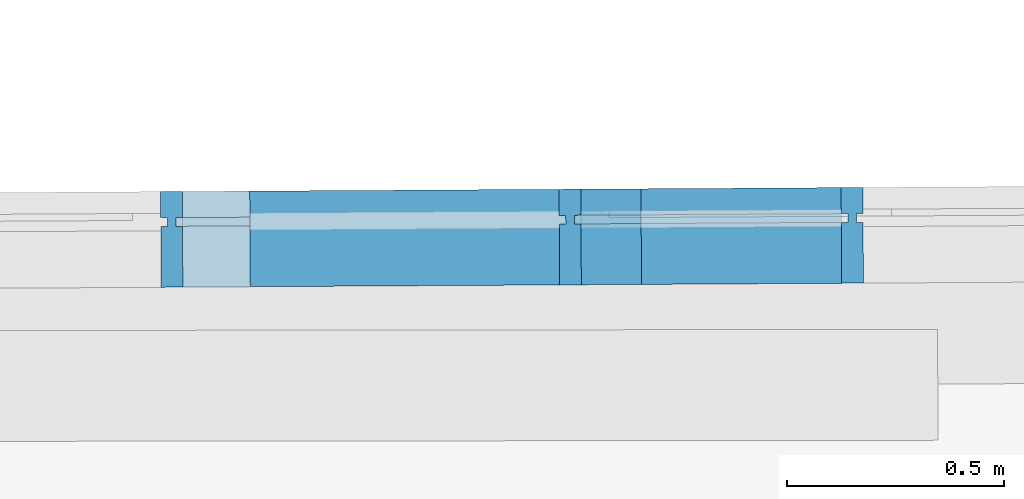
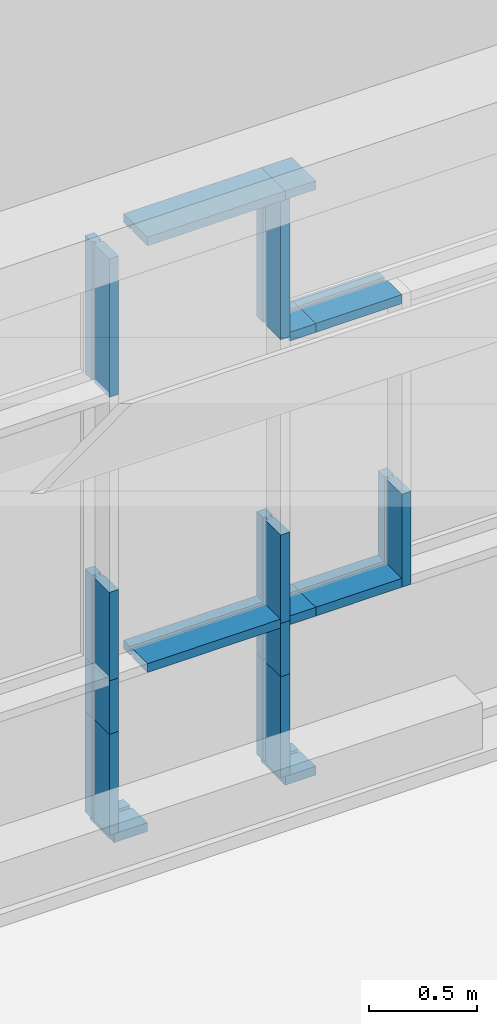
# One storey, part 161 of 196: 18 building element parts, 1 element without a shape of its own.
"""IFC2X3 building model written with IfcOpenShell, lengths in metres."""

from ifc_helpers import new_model, entity, si_unit, converted_unit, derived_unit, money_unit, direction, frame, origin_with_axes, place, context, subcontext, project, spatial, faceted_brep, material, type_object, element, aggregate, save


model = new_model("IFC2X3")

# Units and contexts
model_context = context("Model", 3, precision=1e-05, world=origin_with_axes(), true_north=direction((0.0, 1.0)))
body_context = subcontext(model_context, "Body", "Model", "MODEL_VIEW")
ifc_project = project(units=[si_unit("LENGTHUNIT", "METRE"), si_unit("AREAUNIT", "SQUARE_METRE"), si_unit("VOLUMEUNIT", "CUBIC_METRE"), converted_unit("PLANEANGLEUNIT", "DEGREE", entity("IfcPlaneAngleMeasure", 0.0174532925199), si_unit("PLANEANGLEUNIT", "RADIAN"), dimensions=[0, 0, 0, 0, 0, 0, 0]), money_unit("EUR"), converted_unit("TIMEUNIT", "Year", entity("IfcTimeMeasure", 31556926.0), si_unit("TIMEUNIT", "SECOND"), dimensions=[0, 0, 1, 0, 0, 0, 0]), si_unit("MASSUNIT", "GRAM", prefix="KILO"), si_unit("THERMODYNAMICTEMPERATUREUNIT", "DEGREE_CELSIUS"), si_unit("LUMINOUSINTENSITYUNIT", "LUMEN"), si_unit("ENERGYUNIT", "JOULE", prefix="MEGA"), derived_unit("THERMALCONDUCTANCEUNIT", [(si_unit("POWERUNIT", "WATT"), 1), (si_unit("LENGTHUNIT", "METRE"), -1), (si_unit("THERMODYNAMICTEMPERATUREUNIT", "KELVIN"), -1)]), derived_unit("SPECIFICHEATCAPACITYUNIT", [(si_unit("ENERGYUNIT", "JOULE"), 1), (si_unit("MASSUNIT", "GRAM", prefix="KILO"), -1), (si_unit("THERMODYNAMICTEMPERATUREUNIT", "KELVIN"), -1)]), derived_unit("MASSDENSITYUNIT", [(si_unit("MASSUNIT", "GRAM", prefix="KILO"), 1), (si_unit("VOLUMEUNIT", "CUBIC_METRE"), -1)])], contexts=[model_context])

# Site, building, storey
site_placement = place(None, origin_with_axes())
site = spatial("IfcSite", under=ifc_project, at=site_placement, Name="Gelände", CompositionType="ELEMENT")
building_placement = place(site_placement, origin_with_axes())
building = spatial("IfcBuilding", under=site, at=building_placement, Name="Gebäude", CompositionType="ELEMENT")
storey_placement = place(building_placement, frame((0.0, 0.0, -3.0), z_axis=(0.0, 0.0, 1.0), x_axis=(1.0, 0.0, 0.0)))
storey = spatial("IfcBuildingStorey", under=building, at=storey_placement, Name="KELLERGESCHOSS", CompositionType="ELEMENT", Elevation=-3.0)

# Proxy, building element parts
building_element_proxy_type = type_object("IfcBuildingElementProxyType", Name="Fassadentyp", PredefinedType="NOTDEFINED")
proxy_placement = place(storey_placement, frame((-32.8906294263, 53.9050625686, 0.421025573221), z_axis=(0.0, 0.0, 1.0), x_axis=(1.0, 0.0, 0.0)))
proxy = element("IfcBuildingElementProxy", 1, at=proxy_placement, inside=storey, type_object=building_element_proxy_type, Name="Fassade-002")
ifc_material = material(Name="53_Metall, Aluminium")
building_element_part_1_placement = place(proxy_placement, origin_with_axes())
building_element_part_1 = element("IfcBuildingElementPart", 2, at=building_element_part_1_placement, material=ifc_material, Name="53_Metall, Aluminium", context=body_context, shape_type="Brep", body=[
    faceted_brep([(2.3205840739, 0.00370906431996, 3.31499994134), (2.3205840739, 0.00370906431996, 3.29999994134), (2.3214111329, -0.136288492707, 3.29999994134), (2.3214111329, -0.136288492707, 3.34999994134), (2.32011146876, 0.0837076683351, 3.34999994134), (2.32011146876, 0.0837076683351, 3.29999994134), (2.32046592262, 0.0237087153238, 3.29999994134), (2.32046592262, 0.0237087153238, 3.31499994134), (2.4840161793, 0.00467456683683, 3.31499994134), (2.4840161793, 0.00467456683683, 3.29999994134), (2.4848432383, -0.13532299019, 3.29999994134), (2.4848432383, -0.13532299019, 3.34999994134), (2.48354357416, 0.084673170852, 3.34999994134), (2.48354357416, 0.084673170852, 3.29999994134), (2.48389802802, 0.0246742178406, 3.29999994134), (2.48389802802, 0.0246742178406, 3.31499994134)], [[[0, 1, 2, 3, 4, 5, 6, 7]], [[0, 8, 9, 1]], [[9, 10, 2, 1]], [[10, 11, 3, 2]], [[11, 12, 4, 3]], [[12, 13, 5, 4]], [[6, 5, 13, 14]], [[14, 15, 7, 6]], [[7, 15, 8, 0]], [[8, 15, 14, 13, 12, 11, 10, 9]]]),
])
building_element_part_2_placement = place(proxy_placement, origin_with_axes())
building_element_part_2 = element("IfcBuildingElementPart", 3, at=building_element_part_2_placement, material=ifc_material, Name="53_Metall, Aluminium", context=body_context, shape_type="Brep", body=[
    faceted_brep([(2.34558363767, 0.00385675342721, 2.51000003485), (2.34558363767, 0.00385675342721, 2.49500003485), (2.34641069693, -0.136140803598, 2.49500003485), (2.34641069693, -0.136140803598, 2.54500003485), (2.34558363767, 0.00385675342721, 2.54500003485), (2.34558363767, 0.00385675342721, 2.53000003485), (2.34546548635, 0.0238564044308, 2.53000003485), (2.34546548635, 0.0238564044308, 2.54500003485), (2.34511103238, 0.0838553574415, 2.54500003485), (2.34511103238, 0.0838553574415, 2.49500003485), (2.34546548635, 0.0238564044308, 2.49500003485), (2.34546548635, 0.0238564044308, 2.51000003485), (2.4840161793, 0.00467456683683, 2.51000003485), (2.4840161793, 0.00467456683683, 2.49500003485), (2.4848432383, -0.13532299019, 2.49500003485), (2.4848432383, -0.13532299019, 2.54500003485), (2.4840161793, 0.00467456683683, 2.54500003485), (2.4840161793, 0.00467456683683, 2.53000003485), (2.48389802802, 0.0246742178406, 2.53000003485), (2.48389802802, 0.0246742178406, 2.54500003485), (2.48354357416, 0.084673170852, 2.54500003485), (2.48354357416, 0.084673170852, 2.49500003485), (2.48389802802, 0.0246742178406, 2.49500003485), (2.48389802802, 0.0246742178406, 2.51000003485)], [[[0, 1, 2, 3, 4, 5, 6, 7, 8, 9, 10, 11]], [[1, 0, 12, 13]], [[1, 13, 14, 2]], [[3, 2, 14, 15]], [[4, 3, 15, 16]], [[4, 16, 17, 5]], [[5, 17, 18, 6]], [[7, 6, 18, 19]], [[19, 20, 8, 7]], [[9, 8, 20, 21]], [[22, 10, 9, 21]], [[11, 10, 22, 23]], [[0, 11, 23, 12]], [[23, 22, 21, 20, 19, 18, 17, 16, 15, 14, 13, 12]]]),
])
building_element_part_3_placement = place(proxy_placement, origin_with_axes())
building_element_part_3 = element("IfcBuildingElementPart", 4, at=building_element_part_3_placement, material=ifc_material, Name="53_Metall, Aluminium", context=body_context, shape_type="Brep", body=[
    faceted_brep([(1.39401963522, -0.00176477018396, 0.620000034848), (1.37901989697, -0.00185338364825, 0.620000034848), (1.37984695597, -0.141850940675, 0.620000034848), (1.42984608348, -0.141555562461, 0.620000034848), (1.42901902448, -0.00155800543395, 0.620000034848), (1.41401928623, -0.00164661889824, 0.620000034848), (1.41390113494, 0.0183530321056, 0.620000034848), (1.42890087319, 0.0184416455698, 0.620000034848), (1.42854641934, 0.0784405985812, 0.620000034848), (1.37854729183, 0.0781452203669, 0.620000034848), (1.37890174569, 0.0181462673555, 0.620000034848), (1.39390148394, 0.0182348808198, 0.620000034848), (1.39401963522, -0.00176477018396, 0.0499999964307), (1.37901989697, -0.00185338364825, 0.0499999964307), (1.37984695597, -0.141850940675, 0.0499999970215), (1.42984608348, -0.141555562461, 0.0499999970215), (1.42901902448, -0.00155800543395, 0.0499999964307), (1.41401928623, -0.00164661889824, 0.0499999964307), (1.41390113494, 0.0183530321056, 0.0499999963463), (1.42890087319, 0.0184416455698, 0.0499999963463), (1.42854641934, 0.0784405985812, 0.0499999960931), (1.37854729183, 0.0781452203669, 0.0499999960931), (1.37890174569, 0.0181462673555, 0.0499999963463), (1.39390148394, 0.0182348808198, 0.0499999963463)], [[[0, 1, 2, 3, 4, 5, 6, 7, 8, 9, 10, 11]], [[1, 0, 12, 13]], [[1, 13, 14, 2]], [[2, 14, 15, 3]], [[4, 3, 15, 16]], [[4, 16, 17, 5]], [[5, 17, 18, 6]], [[7, 6, 18, 19]], [[19, 20, 8, 7]], [[8, 20, 21, 9]], [[22, 10, 9, 21]], [[11, 10, 22, 23]], [[0, 11, 23, 12]], [[23, 22, 21, 20, 19, 18, 17, 16, 15, 14, 13, 12]]]),
])
building_element_part_4_placement = place(proxy_placement, origin_with_axes())
building_element_part_4 = element("IfcBuildingElementPart", 5, at=building_element_part_4_placement, material=ifc_material, Name="53_Metall, Aluminium", context=body_context, shape_type="Brep", body=[
    faceted_brep([(1.58403188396, -0.000642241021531, 0.91085189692), (1.58403188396, -0.000642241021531, 0.89585189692), (1.58485894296, -0.140639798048, 0.89585189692), (1.58485894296, -0.140639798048, 0.94585189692), (1.58403188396, -0.000642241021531, 0.94585189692), (1.58403188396, -0.000642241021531, 0.93085189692), (1.58391373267, 0.0193574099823, 0.93085189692), (1.58391373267, 0.0193574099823, 0.94585189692), (1.58355927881, 0.0793563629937, 0.94585189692), (1.58355927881, 0.0793563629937, 0.89585189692), (1.58391373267, 0.0193574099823, 0.89585189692), (1.58391373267, 0.0193574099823, 0.91085189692), (2.29558451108, 0.0035613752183, 0.91085189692), (2.29558451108, 0.0035613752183, 0.89585189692), (2.29641156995, -0.136436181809, 0.89585189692), (2.29641156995, -0.136436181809, 0.94585189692), (2.29558451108, 0.0035613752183, 0.94585189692), (2.29558451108, 0.0035613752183, 0.93085189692), (2.29546635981, 0.0235610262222, 0.93085189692), (2.29546635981, 0.0235610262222, 0.94585189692), (2.29511190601, 0.0835599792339, 0.94585189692), (2.29511190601, 0.0835599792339, 0.89585189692), (2.29546635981, 0.0235610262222, 0.89585189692), (2.29546635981, 0.0235610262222, 0.91085189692)], [[[0, 1, 2, 3, 4, 5, 6, 7, 8, 9, 10, 11]], [[1, 0, 12, 13]], [[1, 13, 14, 2]], [[2, 14, 15, 3]], [[4, 3, 15, 16]], [[4, 16, 17, 5]], [[5, 17, 18, 6]], [[7, 6, 18, 19]], [[19, 20, 8, 7]], [[8, 20, 21, 9]], [[22, 10, 9, 21]], [[11, 10, 22, 23]], [[0, 11, 23, 12]], [[23, 22, 21, 20, 19, 18, 17, 16, 15, 14, 13, 12]]]),
])
building_element_part_5_placement = place(proxy_placement, origin_with_axes())
building_element_part_5 = element("IfcBuildingElementPart", 6, at=building_element_part_5_placement, material=ifc_material, Name="53_Metall, Aluminium", context=body_context, shape_type="Brep", body=[
    faceted_brep([(2.31058424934, 0.00364998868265, 1.42000004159), (2.29558451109, 0.00356137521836, 1.42000004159), (2.29641157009, -0.136436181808, 1.42000004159), (2.3464106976, -0.136140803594, 1.42000004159), (2.3455836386, 0.00385675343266, 1.42000004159), (2.33058390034, 0.00376813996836, 1.42000004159), (2.33046574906, 0.0237677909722, 1.42000004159), (2.34546548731, 0.0238564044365, 1.42000004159), (2.34511103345, 0.0838553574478, 1.42000004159), (2.29511190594, 0.0835599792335, 1.42000004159), (2.2954663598, 0.0235610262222, 1.42000004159), (2.31046609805, 0.0236496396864, 1.42000004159), (2.31058424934, 0.00364998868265, 0.92085189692), (2.29558451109, 0.00356137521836, 0.92085189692), (2.29641157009, -0.136436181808, 0.92085189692), (2.3464106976, -0.136140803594, 0.92085189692), (2.3455836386, 0.00385675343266, 0.92085189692), (2.33058390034, 0.00376813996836, 0.92085189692), (2.33046574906, 0.0237677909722, 0.92085189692), (2.34546548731, 0.0238564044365, 0.92085189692), (2.34511103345, 0.0838553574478, 0.92085189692), (2.29511190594, 0.0835599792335, 0.92085189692), (2.2954663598, 0.0235610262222, 0.92085189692), (2.31046609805, 0.0236496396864, 0.92085189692)], [[[0, 1, 2, 3, 4, 5, 6, 7, 8, 9, 10, 11]], [[1, 0, 12, 13]], [[1, 13, 14, 2]], [[3, 2, 14, 15]], [[4, 3, 15, 16]], [[4, 16, 17, 5]], [[5, 17, 18, 6]], [[7, 6, 18, 19]], [[19, 20, 8, 7]], [[9, 8, 20, 21]], [[22, 10, 9, 21]], [[11, 10, 22, 23]], [[0, 11, 23, 12]], [[23, 22, 21, 20, 19, 18, 17, 16, 15, 14, 13, 12]]]),
])
building_element_part_6_placement = place(proxy_placement, origin_with_axes())
building_element_part_6 = element("IfcBuildingElementPart", 7, at=building_element_part_6_placement, material=ifc_material, Name="53_Metall, Aluminium", context=body_context, shape_type="Brep", body=[
    faceted_brep([(1.39401963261, -0.00176477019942, 0.920851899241), (1.37901989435, -0.00185338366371, 0.920851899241), (1.37984695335, -0.14185094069, 0.920851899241), (1.42984608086, -0.141555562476, 0.920851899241), (1.42901902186, -0.00155800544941, 0.920851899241), (1.41401928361, -0.0016466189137, 0.920851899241), (1.41390113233, 0.0183530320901, 0.920851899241), (1.42890087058, 0.0184416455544, 0.920851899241), (1.42854641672, 0.0784405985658, 0.920851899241), (1.37854728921, 0.0781452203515, 0.920851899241), (1.37890174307, 0.0181462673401, 0.920851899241), (1.39390148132, 0.0182348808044, 0.920851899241), (1.39401963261, -0.00176477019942, 0.620000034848), (1.37901989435, -0.00185338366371, 0.620000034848), (1.37984695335, -0.14185094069, 0.620000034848), (1.42984608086, -0.141555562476, 0.620000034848), (1.42901902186, -0.00155800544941, 0.620000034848), (1.41401928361, -0.0016466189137, 0.620000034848), (1.41390113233, 0.0183530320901, 0.620000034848), (1.42890087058, 0.0184416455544, 0.620000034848), (1.42854641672, 0.0784405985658, 0.620000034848), (1.37854728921, 0.0781452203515, 0.620000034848), (1.37890174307, 0.0181462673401, 0.620000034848), (1.39390148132, 0.0182348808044, 0.620000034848)], [[[0, 1, 2, 3, 4, 5, 6, 7, 8, 9, 10, 11]], [[1, 0, 12, 13]], [[1, 13, 14, 2]], [[3, 2, 14, 15]], [[4, 3, 15, 16]], [[4, 16, 17, 5]], [[5, 17, 18, 6]], [[7, 6, 18, 19]], [[19, 20, 8, 7]], [[9, 8, 20, 21]], [[22, 10, 9, 21]], [[11, 10, 22, 23]], [[0, 11, 23, 12]], [[23, 22, 21, 20, 19, 18, 17, 16, 15, 14, 13, 12]]]),
])
building_element_part_7_placement = place(proxy_placement, origin_with_axes())
building_element_part_7 = element("IfcBuildingElementPart", 8, at=building_element_part_7_placement, material=ifc_material, Name="53_Metall, Aluminium", context=body_context, shape_type="Brep", body=[
    faceted_brep([(1.39401963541, -0.00176477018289, 3.29999994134), (1.37901989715, -0.00185338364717, 3.29999994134), (1.37984695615, -0.141850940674, 3.29999994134), (1.42984608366, -0.141555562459, 3.29999994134), (1.42901902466, -0.00155800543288, 3.29999994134), (1.41401928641, -0.00164661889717, 3.29999994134), (1.41390113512, 0.0183530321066, 3.29999994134), (1.42890087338, 0.0184416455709, 3.29999994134), (1.42854641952, 0.0784405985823, 3.29999994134), (1.37854729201, 0.078145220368, 3.29999994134), (1.37890174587, 0.0181462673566, 3.29999994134), (1.39390148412, 0.0182348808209, 3.29999994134), (1.39401963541, -0.00176477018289, 2.52000003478), (1.37901989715, -0.00185338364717, 2.52000003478), (1.37984695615, -0.141850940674, 2.52000003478), (1.42984608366, -0.141555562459, 2.52000003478), (1.42901902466, -0.00155800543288, 2.52000003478), (1.41401928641, -0.00164661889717, 2.52000003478), (1.41390113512, 0.0183530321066, 2.52000003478), (1.42890087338, 0.0184416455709, 2.52000003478), (1.42854641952, 0.0784405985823, 2.52000003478), (1.37854729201, 0.078145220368, 2.52000003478), (1.37890174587, 0.0181462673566, 2.52000003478), (1.39390148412, 0.0182348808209, 2.52000003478)], [[[0, 1, 2, 3, 4, 5, 6, 7, 8, 9, 10, 11]], [[1, 0, 12, 13]], [[1, 13, 14, 2]], [[3, 2, 14, 15]], [[4, 3, 15, 16]], [[4, 16, 17, 5]], [[5, 17, 18, 6]], [[7, 6, 18, 19]], [[19, 20, 8, 7]], [[9, 8, 20, 21]], [[22, 10, 9, 21]], [[11, 10, 22, 23]], [[0, 11, 23, 12]], [[23, 22, 21, 20, 19, 18, 17, 16, 15, 14, 13, 12]]]),
])
building_element_part_8_placement = place(proxy_placement, origin_with_axes())
building_element_part_8 = element("IfcBuildingElementPart", 9, at=building_element_part_8_placement, material=ifc_material, Name="53_Metall, Aluminium", context=body_context, shape_type="Brep", body=[
    faceted_brep([(1.40401946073, -0.0017056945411, 0.0349999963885), (1.40390130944, 0.0182939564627, 0.0349999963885), (1.40390130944, 0.0182939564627, 0.0499999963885), (1.40354685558, 0.0782929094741, 0.0499999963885), (1.40354685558, 0.0782929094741, -3.61150487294e-09), (1.40484651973, -0.141703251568, -3.61150487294e-09), (1.40484651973, -0.141703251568, 0.0499999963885), (1.40401946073, -0.0017056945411, 0.0499999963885), (1.58403188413, -0.000642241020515, 0.0349999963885), (1.58391373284, 0.0193574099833, 0.0349999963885), (1.58391373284, 0.0193574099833, 0.0499999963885), (1.58355927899, 0.0793563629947, 0.0499999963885), (1.58355927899, 0.0793563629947, -3.61150487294e-09), (1.58485894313, -0.140639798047, -3.61150487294e-09), (1.58485894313, -0.140639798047, 0.0499999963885), (1.58403188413, -0.000642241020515, 0.0499999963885)], [[[0, 1, 2, 3, 4, 5, 6, 7]], [[1, 0, 8, 9]], [[10, 2, 1, 9]], [[2, 10, 11, 3]], [[12, 4, 3, 11]], [[13, 5, 4, 12]], [[14, 6, 5, 13]], [[15, 7, 6, 14]], [[0, 7, 15, 8]], [[8, 15, 14, 13, 12, 11, 10, 9]]]),
])
building_element_part_9_placement = place(proxy_placement, origin_with_axes())
building_element_part_9 = element("IfcBuildingElementPart", 10, at=building_element_part_9_placement, material=ifc_material, Name="53_Metall, Aluminium", context=body_context, shape_type="Brep", body=[
    faceted_brep([(2.3105842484, 0.0036499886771, 0.620000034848), (2.29558451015, 0.00356137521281, 0.620000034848), (2.29641156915, -0.136436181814, 0.620000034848), (2.34641069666, -0.136140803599, 0.620000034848), (2.34558363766, 0.00385675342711, 0.620000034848), (2.3305838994, 0.00376813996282, 0.620000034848), (2.33046574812, 0.0237677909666, 0.620000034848), (2.34546548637, 0.0238564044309, 0.620000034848), (2.34511103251, 0.0838553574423, 0.620000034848), (2.295111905, 0.083559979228, 0.620000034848), (2.29546635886, 0.0235610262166, 0.620000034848), (2.31046609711, 0.0236496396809, 0.620000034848), (2.3105842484, 0.0036499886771, 0.0499999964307), (2.29558451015, 0.00356137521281, 0.0499999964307), (2.29641156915, -0.136436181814, 0.0499999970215), (2.34641069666, -0.136140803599, 0.0499999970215), (2.34558363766, 0.00385675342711, 0.0499999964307), (2.3305838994, 0.00376813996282, 0.0499999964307), (2.33046574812, 0.0237677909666, 0.0499999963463), (2.34546548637, 0.0238564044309, 0.0499999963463), (2.34511103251, 0.0838553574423, 0.0499999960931), (2.295111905, 0.083559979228, 0.0499999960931), (2.29546635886, 0.0235610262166, 0.0499999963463), (2.31046609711, 0.0236496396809, 0.0499999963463)], [[[0, 1, 2, 3, 4, 5, 6, 7, 8, 9, 10, 11]], [[1, 0, 12, 13]], [[1, 13, 14, 2]], [[2, 14, 15, 3]], [[4, 3, 15, 16]], [[4, 16, 17, 5]], [[5, 17, 18, 6]], [[7, 6, 18, 19]], [[19, 20, 8, 7]], [[8, 20, 21, 9]], [[22, 10, 9, 21]], [[11, 10, 22, 23]], [[0, 11, 23, 12]], [[23, 22, 21, 20, 19, 18, 17, 16, 15, 14, 13, 12]]]),
])
building_element_part_10_placement = place(proxy_placement, origin_with_axes())
building_element_part_10 = element("IfcBuildingElementPart", 11, at=building_element_part_10_placement, material=ifc_material, Name="53_Metall, Aluminium", context=body_context, shape_type="Brep", body=[
    faceted_brep([(2.95940666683, 0.00748301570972, 1.4200000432), (2.94440692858, 0.00739440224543, 1.4200000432), (2.94523398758, -0.132603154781, 1.4200000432), (2.99523311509, -0.132307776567, 1.4200000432), (2.99440605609, 0.00768978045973, 1.4200000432), (2.97940631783, 0.00760116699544, 1.4200000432), (2.97928816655, 0.0276008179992, 1.4200000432), (2.9942879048, 0.0276894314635, 1.4200000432), (2.99393345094, 0.0876883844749, 1.4200000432), (2.94393432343, 0.0873930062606, 1.4200000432), (2.94428877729, 0.0273940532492, 1.4200000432), (2.95928851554, 0.0274826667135, 1.4200000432), (2.95940666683, 0.00748301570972, 0.895851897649), (2.94440692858, 0.00739440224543, 0.895851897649), (2.94523398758, -0.132603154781, 0.895851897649), (2.99523311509, -0.132307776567, 0.895851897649), (2.99440605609, 0.00768978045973, 0.895851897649), (2.97940631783, 0.00760116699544, 0.895851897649), (2.97928816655, 0.0276008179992, 0.895851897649), (2.9942879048, 0.0276894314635, 0.895851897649), (2.99393345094, 0.0876883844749, 0.895851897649), (2.94393432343, 0.0873930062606, 0.895851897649), (2.94428877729, 0.0273940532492, 0.895851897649), (2.95928851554, 0.0274826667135, 0.895851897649)], [[[0, 1, 2, 3, 4, 5, 6, 7, 8, 9, 10, 11]], [[1, 0, 12, 13]], [[1, 13, 14, 2]], [[3, 2, 14, 15]], [[4, 3, 15, 16]], [[4, 16, 17, 5]], [[5, 17, 18, 6]], [[7, 6, 18, 19]], [[19, 20, 8, 7]], [[9, 8, 20, 21]], [[22, 10, 9, 21]], [[11, 10, 22, 23]], [[0, 11, 23, 12]], [[23, 22, 21, 20, 19, 18, 17, 16, 15, 14, 13, 12]]]),
])
building_element_part_11_placement = place(proxy_placement, origin_with_axes())
building_element_part_11 = element("IfcBuildingElementPart", 12, at=building_element_part_11_placement, material=ifc_material, Name="53_Metall, Aluminium", context=body_context, shape_type="Brep", body=[
    faceted_brep([(2.3205840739, 0.00370906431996, 0.0349999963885), (2.32046592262, 0.0237087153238, 0.0349999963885), (2.32046592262, 0.0237087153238, 0.0499999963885), (2.32011146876, 0.0837076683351, 0.0499999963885), (2.32011146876, 0.0837076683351, -3.61150487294e-09), (2.3214111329, -0.136288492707, -3.61150487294e-09), (2.3214111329, -0.136288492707, 0.0499999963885), (2.3205840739, 0.00370906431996, 0.0499999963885), (2.48401617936, 0.00467456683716, 0.0349999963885), (2.48389802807, 0.024674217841, 0.0349999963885), (2.48389802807, 0.024674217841, 0.0499999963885), (2.48354357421, 0.0846731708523, 0.0499999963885), (2.48354357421, 0.0846731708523, -3.61150487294e-09), (2.48484323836, -0.135322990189, -3.61150487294e-09), (2.48484323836, -0.135322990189, 0.0499999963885), (2.48401617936, 0.00467456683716, 0.0499999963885)], [[[0, 1, 2, 3, 4, 5, 6, 7]], [[1, 0, 8, 9]], [[10, 2, 1, 9]], [[2, 10, 11, 3]], [[12, 4, 3, 11]], [[13, 5, 4, 12]], [[14, 6, 5, 13]], [[15, 7, 6, 14]], [[0, 7, 15, 8]], [[8, 15, 14, 13, 12, 11, 10, 9]]]),
])
building_element_part_12_placement = place(proxy_placement, origin_with_axes())
building_element_part_12 = element("IfcBuildingElementPart", 13, at=building_element_part_12_placement, material=ifc_material, Name="53_Metall, Aluminium", context=body_context, shape_type="Brep", body=[
    faceted_brep([(1.39401963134, -0.00176477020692, 1.42000003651), (1.37901989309, -0.0018533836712, 1.42000003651), (1.37984695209, -0.141850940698, 1.42000003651), (1.42984607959, -0.141555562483, 1.42000003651), (1.42901902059, -0.00155800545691, 1.42000003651), (1.41401928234, -0.0016466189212, 1.42000003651), (1.41390113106, 0.0183530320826, 1.42000003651), (1.42890086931, 0.0184416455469, 1.42000003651), (1.42854641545, 0.0784405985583, 1.42000003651), (1.37854728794, 0.078145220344, 1.42000003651), (1.3789017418, 0.0181462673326, 1.42000003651), (1.39390148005, 0.0182348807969, 1.42000003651), (1.39401963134, -0.00176477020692, 0.920851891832), (1.37901989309, -0.0018533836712, 0.920851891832), (1.37984695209, -0.141850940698, 0.920851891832), (1.42984607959, -0.141555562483, 0.920851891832), (1.42901902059, -0.00155800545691, 0.920851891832), (1.41401928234, -0.0016466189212, 0.920851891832), (1.41390113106, 0.0183530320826, 0.920851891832), (1.42890086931, 0.0184416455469, 0.920851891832), (1.42854641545, 0.0784405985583, 0.920851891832), (1.37854728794, 0.078145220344, 0.920851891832), (1.3789017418, 0.0181462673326, 0.920851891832), (1.39390148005, 0.0182348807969, 0.920851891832)], [[[0, 1, 2, 3, 4, 5, 6, 7, 8, 9, 10, 11]], [[1, 0, 12, 13]], [[1, 13, 14, 2]], [[3, 2, 14, 15]], [[4, 3, 15, 16]], [[4, 16, 17, 5]], [[5, 17, 18, 6]], [[7, 6, 18, 19]], [[19, 20, 8, 7]], [[9, 8, 20, 21]], [[22, 10, 9, 21]], [[11, 10, 22, 23]], [[0, 11, 23, 12]], [[23, 22, 21, 20, 19, 18, 17, 16, 15, 14, 13, 12]]]),
])
building_element_part_13_placement = place(proxy_placement, origin_with_axes())
building_element_part_13 = element("IfcBuildingElementPart", 14, at=building_element_part_13_placement, material=ifc_material, Name="53_Metall, Aluminium", context=body_context, shape_type="Brep", body=[
    faceted_brep([(2.4840161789, 0.00467456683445, 0.910851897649), (2.4840161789, 0.00467456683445, 0.895851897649), (2.4848432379, -0.135322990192, 0.895851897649), (2.4848432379, -0.135322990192, 0.945851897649), (2.4840161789, 0.00467456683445, 0.945851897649), (2.4840161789, 0.00467456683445, 0.930851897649), (2.48389802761, 0.0246742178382, 0.930851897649), (2.48389802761, 0.0246742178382, 0.945851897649), (2.48354357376, 0.0846731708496, 0.945851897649), (2.48354357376, 0.0846731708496, 0.895851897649), (2.48389802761, 0.0246742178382, 0.895851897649), (2.48389802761, 0.0246742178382, 0.910851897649), (2.94440692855, 0.00739440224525, 0.910851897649), (2.94440692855, 0.00739440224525, 0.895851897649), (2.94523398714, -0.132603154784, 0.895851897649), (2.94523398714, -0.132603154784, 0.945851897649), (2.94440692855, 0.00739440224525, 0.945851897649), (2.94440692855, 0.00739440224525, 0.930851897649), (2.94428877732, 0.0273940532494, 0.930851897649), (2.94428877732, 0.0273940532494, 0.945851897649), (2.94393432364, 0.0873930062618, 0.945851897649), (2.94393432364, 0.0873930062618, 0.895851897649), (2.94428877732, 0.0273940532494, 0.895851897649), (2.94428877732, 0.0273940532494, 0.910851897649)], [[[0, 1, 2, 3, 4, 5, 6, 7, 8, 9, 10, 11]], [[1, 0, 12, 13]], [[1, 13, 14, 2]], [[2, 14, 15, 3]], [[4, 3, 15, 16]], [[4, 16, 17, 5]], [[5, 17, 18, 6]], [[7, 6, 18, 19]], [[19, 20, 8, 7]], [[8, 20, 21, 9]], [[22, 10, 9, 21]], [[11, 10, 22, 23]], [[0, 11, 23, 12]], [[23, 22, 21, 20, 19, 18, 17, 16, 15, 14, 13, 12]]]),
])
building_element_part_14_placement = place(proxy_placement, origin_with_axes())
building_element_part_14 = element("IfcBuildingElementPart", 15, at=building_element_part_14_placement, material=ifc_material, Name="53_Metall, Aluminium", context=body_context, shape_type="Brep", body=[
    faceted_brep([(2.3105842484, 0.0036499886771, 3.29999994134), (2.29558451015, 0.00356137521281, 3.29999994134), (2.29641156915, -0.136436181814, 3.29999994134), (2.34641069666, -0.136140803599, 3.29999994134), (2.34558363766, 0.00385675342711, 3.29999994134), (2.3305838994, 0.00376813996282, 3.29999994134), (2.33046574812, 0.0237677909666, 3.29999994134), (2.34546548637, 0.0238564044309, 3.29999994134), (2.34511103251, 0.0838553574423, 3.29999994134), (2.295111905, 0.083559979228, 3.29999994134), (2.29546635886, 0.0235610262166, 3.29999994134), (2.31046609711, 0.0236496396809, 3.29999994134), (2.3105842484, 0.0036499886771, 2.52000003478), (2.29558451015, 0.00356137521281, 2.52000003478), (2.29641156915, -0.136436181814, 2.52000003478), (2.34641069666, -0.136140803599, 2.52000003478), (2.34558363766, 0.00385675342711, 2.52000003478), (2.3305838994, 0.00376813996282, 2.52000003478), (2.33046574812, 0.0237677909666, 2.52000003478), (2.34546548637, 0.0238564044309, 2.52000003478), (2.34511103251, 0.0838553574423, 2.52000003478), (2.295111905, 0.083559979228, 2.52000003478), (2.29546635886, 0.0235610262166, 2.52000003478), (2.31046609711, 0.0236496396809, 2.52000003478)], [[[0, 1, 2, 3, 4, 5, 6, 7, 8, 9, 10, 11]], [[1, 0, 12, 13]], [[1, 13, 14, 2]], [[3, 2, 14, 15]], [[4, 3, 15, 16]], [[4, 16, 17, 5]], [[5, 17, 18, 6]], [[7, 6, 18, 19]], [[19, 20, 8, 7]], [[9, 8, 20, 21]], [[22, 10, 9, 21]], [[11, 10, 22, 23]], [[0, 11, 23, 12]], [[23, 22, 21, 20, 19, 18, 17, 16, 15, 14, 13, 12]]]),
])
building_element_part_15_placement = place(proxy_placement, origin_with_axes())
building_element_part_15 = element("IfcBuildingElementPart", 16, at=building_element_part_15_placement, material=ifc_material, Name="53_Metall, Aluminium", context=body_context, shape_type="Brep", body=[
    faceted_brep([(2.34558363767, 0.00385675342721, 0.910851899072), (2.34558363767, 0.00385675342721, 0.895851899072), (2.34641069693, -0.136140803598, 0.895851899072), (2.34641069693, -0.136140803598, 0.945851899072), (2.34558363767, 0.00385675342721, 0.945851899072), (2.34558363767, 0.00385675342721, 0.930851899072), (2.34546548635, 0.0238564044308, 0.930851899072), (2.34546548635, 0.0238564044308, 0.945851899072), (2.34511103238, 0.0838553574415, 0.945851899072), (2.34511103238, 0.0838553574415, 0.895851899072), (2.34546548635, 0.0238564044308, 0.895851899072), (2.34546548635, 0.0238564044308, 0.910851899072), (2.4840161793, 0.00467456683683, 0.910851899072), (2.4840161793, 0.00467456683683, 0.895851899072), (2.4848432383, -0.13532299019, 0.895851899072), (2.4848432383, -0.13532299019, 0.945851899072), (2.4840161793, 0.00467456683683, 0.945851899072), (2.4840161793, 0.00467456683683, 0.930851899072), (2.48389802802, 0.0246742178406, 0.930851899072), (2.48389802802, 0.0246742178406, 0.945851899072), (2.48354357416, 0.084673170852, 0.945851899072), (2.48354357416, 0.084673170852, 0.895851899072), (2.48389802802, 0.0246742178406, 0.895851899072), (2.48389802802, 0.0246742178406, 0.910851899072)], [[[0, 1, 2, 3, 4, 5, 6, 7, 8, 9, 10, 11]], [[1, 0, 12, 13]], [[1, 13, 14, 2]], [[3, 2, 14, 15]], [[4, 3, 15, 16]], [[4, 16, 17, 5]], [[5, 17, 18, 6]], [[7, 6, 18, 19]], [[19, 20, 8, 7]], [[9, 8, 20, 21]], [[22, 10, 9, 21]], [[11, 10, 22, 23]], [[0, 11, 23, 12]], [[23, 22, 21, 20, 19, 18, 17, 16, 15, 14, 13, 12]]]),
])
building_element_part_16_placement = place(proxy_placement, origin_with_axes())
building_element_part_16 = element("IfcBuildingElementPart", 17, at=building_element_part_16_placement, material=ifc_material, Name="53_Metall, Aluminium", context=body_context, shape_type="Brep", body=[
    faceted_brep([(2.48401615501, 0.00467456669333, 2.51000003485), (2.48401615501, 0.00467456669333, 2.49500003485), (2.48484321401, -0.135322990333, 2.49500003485), (2.48484321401, -0.135322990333, 2.54500003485), (2.48401615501, 0.00467456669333, 2.54500003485), (2.48401615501, 0.00467456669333, 2.53000003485), (2.48389800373, 0.0246742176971, 2.53000003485), (2.48389800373, 0.0246742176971, 2.54500003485), (2.48354354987, 0.0846731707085, 2.54500003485), (2.48354354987, 0.0846731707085, 2.49500003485), (2.48389800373, 0.0246742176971, 2.49500003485), (2.48389800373, 0.0246742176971, 2.51000003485), (2.94440690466, 0.00739440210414, 2.51000003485), (2.94440690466, 0.00739440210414, 2.49500003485), (2.94523396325, -0.132603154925, 2.49500003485), (2.94523396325, -0.132603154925, 2.54500003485), (2.94440690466, 0.00739440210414, 2.54500003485), (2.94440690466, 0.00739440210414, 2.53000003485), (2.94428875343, 0.0273940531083, 2.53000003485), (2.94428875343, 0.0273940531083, 2.54500003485), (2.94393429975, 0.0873930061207, 2.54500003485), (2.94393429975, 0.0873930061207, 2.49500003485), (2.94428875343, 0.0273940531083, 2.49500003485), (2.94428875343, 0.0273940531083, 2.51000003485)], [[[0, 1, 2, 3, 4, 5, 6, 7, 8, 9, 10, 11]], [[1, 0, 12, 13]], [[1, 13, 14, 2]], [[2, 14, 15, 3]], [[4, 3, 15, 16]], [[4, 16, 17, 5]], [[5, 17, 18, 6]], [[7, 6, 18, 19]], [[19, 20, 8, 7]], [[8, 20, 21, 9]], [[22, 10, 9, 21]], [[11, 10, 22, 23]], [[0, 11, 23, 12]], [[23, 22, 21, 20, 19, 18, 17, 16, 15, 14, 13, 12]]]),
])
building_element_part_17_placement = place(proxy_placement, origin_with_axes())
building_element_part_17 = element("IfcBuildingElementPart", 18, at=building_element_part_17_placement, material=ifc_material, Name="53_Metall, Aluminium", context=body_context, shape_type="Brep", body=[
    faceted_brep([(2.31058424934, 0.00364998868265, 0.920851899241), (2.29558451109, 0.00356137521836, 0.920851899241), (2.29641157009, -0.136436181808, 0.920851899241), (2.3464106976, -0.136140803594, 0.920851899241), (2.3455836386, 0.00385675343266, 0.920851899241), (2.33058390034, 0.00376813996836, 0.920851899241), (2.33046574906, 0.0237677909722, 0.920851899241), (2.34546548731, 0.0238564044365, 0.920851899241), (2.34511103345, 0.0838553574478, 0.920851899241), (2.29511190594, 0.0835599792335, 0.920851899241), (2.2954663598, 0.0235610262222, 0.920851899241), (2.31046609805, 0.0236496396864, 0.920851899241), (2.31058424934, 0.00364998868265, 0.620000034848), (2.29558451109, 0.00356137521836, 0.620000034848), (2.29641157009, -0.136436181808, 0.620000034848), (2.3464106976, -0.136140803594, 0.620000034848), (2.3455836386, 0.00385675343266, 0.620000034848), (2.33058390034, 0.00376813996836, 0.620000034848), (2.33046574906, 0.0237677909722, 0.620000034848), (2.34546548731, 0.0238564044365, 0.620000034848), (2.34511103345, 0.0838553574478, 0.620000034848), (2.29511190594, 0.0835599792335, 0.620000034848), (2.2954663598, 0.0235610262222, 0.620000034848), (2.31046609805, 0.0236496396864, 0.620000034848)], [[[0, 1, 2, 3, 4, 5, 6, 7, 8, 9, 10, 11]], [[1, 0, 12, 13]], [[1, 13, 14, 2]], [[3, 2, 14, 15]], [[4, 3, 15, 16]], [[4, 16, 17, 5]], [[5, 17, 18, 6]], [[7, 6, 18, 19]], [[19, 20, 8, 7]], [[9, 8, 20, 21]], [[22, 10, 9, 21]], [[11, 10, 22, 23]], [[0, 11, 23, 12]], [[23, 22, 21, 20, 19, 18, 17, 16, 15, 14, 13, 12]]]),
])
building_element_part_18_placement = place(proxy_placement, origin_with_axes())
building_element_part_18 = element("IfcBuildingElementPart", 19, at=building_element_part_18_placement, material=ifc_material, Name="53_Metall, Aluminium", context=body_context, shape_type="Brep", body=[
    faceted_brep([(1.58403188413, -0.000642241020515, 3.31499994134), (1.58403188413, -0.000642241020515, 3.29999994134), (1.58485894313, -0.140639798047, 3.29999994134), (1.58485894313, -0.140639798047, 3.34999994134), (1.58355927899, 0.0793563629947, 3.34999994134), (1.58355927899, 0.0793563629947, 3.29999994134), (1.58391373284, 0.0193574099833, 3.29999994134), (1.58391373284, 0.0193574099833, 3.31499994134), (2.3205840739, 0.00370906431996, 3.31499994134), (2.3205840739, 0.00370906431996, 3.29999994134), (2.3214111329, -0.136288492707, 3.29999994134), (2.3214111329, -0.136288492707, 3.34999994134), (2.32011146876, 0.0837076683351, 3.34999994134), (2.32011146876, 0.0837076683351, 3.29999994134), (2.32046592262, 0.0237087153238, 3.29999994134), (2.32046592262, 0.0237087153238, 3.31499994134)], [[[0, 1, 2, 3, 4, 5, 6, 7]], [[0, 8, 9, 1]], [[9, 10, 2, 1]], [[10, 11, 3, 2]], [[11, 12, 4, 3]], [[12, 13, 5, 4]], [[6, 5, 13, 14]], [[14, 15, 7, 6]], [[7, 15, 8, 0]], [[8, 15, 14, 13, 12, 11, 10, 9]]]),
])
aggregate(proxy, [building_element_part_1, building_element_part_2, building_element_part_3, building_element_part_4, building_element_part_5, building_element_part_6, building_element_part_7, building_element_part_8, building_element_part_9, building_element_part_10, building_element_part_11, building_element_part_12, building_element_part_13, building_element_part_14, building_element_part_15, building_element_part_16, building_element_part_17, building_element_part_18])

save(model, "model.ifc")
